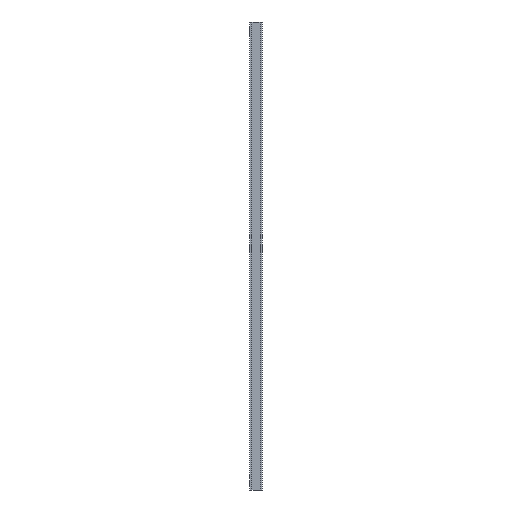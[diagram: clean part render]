
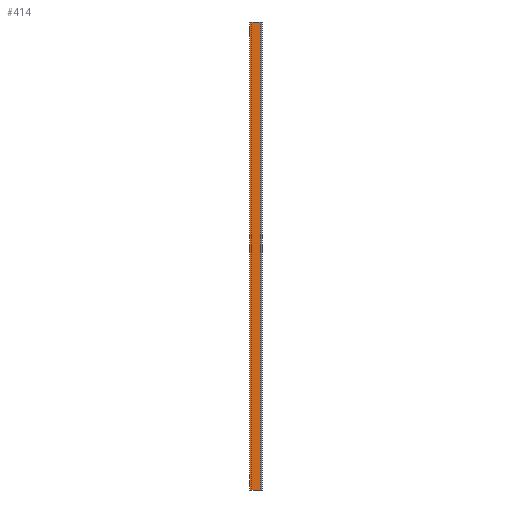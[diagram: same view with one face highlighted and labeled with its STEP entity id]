
A CAD part, left-side view. The second image highlights one B-rep face of the part: STEP entity #414.
In plain terms, the highlighted planar face has unit normal (-1, 0, 0).
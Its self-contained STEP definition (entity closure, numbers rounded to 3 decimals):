
#30 = DIRECTION ( 'NONE',  ( 0., 1., 0. ) ) ;
#39 = CARTESIAN_POINT ( 'NONE',  ( -8., 12.5, 479. ) ) ;
#40 = EDGE_CURVE ( 'NONE', #872, #365, #1517, .T. ) ;
#61 = EDGE_CURVE ( 'NONE', #365, #673, #1117, .T. ) ;
#70 = CARTESIAN_POINT ( 'NONE',  ( -8., 0., 0. ) ) ;
#81 = CARTESIAN_POINT ( 'NONE',  ( -8., 9.3, 479. ) ) ;
#89 = ORIENTED_EDGE ( 'NONE', *, *, #464, .F. ) ;
#101 = CARTESIAN_POINT ( 'NONE',  ( -8., 0., 479. ) ) ;
#112 = EDGE_LOOP ( 'NONE', ( #1707, #1626, #593, #89, #1709, #583, #1312, #295 ) ) ;
#122 = LINE ( 'NONE', #689, #876 ) ;
#147 = CARTESIAN_POINT ( 'NONE',  ( -8., 12.5, 479. ) ) ;
#184 = LINE ( 'NONE', #70, #951 ) ;
#192 = VECTOR ( 'NONE', #524, 1000. ) ;
#210 = DIRECTION ( 'NONE',  ( 0., -1., 0. ) ) ;
#216 = VERTEX_POINT ( 'NONE', #1270 ) ;
#256 = CARTESIAN_POINT ( 'NONE',  ( -8., 9.3, 0. ) ) ;
#276 = VECTOR ( 'NONE', #1369, 1000. ) ;
#295 = ORIENTED_EDGE ( 'NONE', *, *, #852, .F. ) ;
#297 = EDGE_CURVE ( 'NONE', #473, #1073, #184, .T. ) ;
#341 = DIRECTION ( 'NONE',  ( 0., 0., -1. ) ) ;
#365 = VERTEX_POINT ( 'NONE', #1578 ) ;
#377 = DIRECTION ( 'NONE',  ( -1., 0., 0. ) ) ;
#398 = CARTESIAN_POINT ( 'NONE',  ( -8., 0., 0. ) ) ;
#414 = ADVANCED_FACE ( 'NONE', ( #1441 ), #1457, .T. ) ;
#464 = EDGE_CURVE ( 'NONE', #775, #216, #1327, .T. ) ;
#473 = VERTEX_POINT ( 'NONE', #886 ) ;
#476 = LINE ( 'NONE', #1008, #1503 ) ;
#524 = DIRECTION ( 'NONE',  ( 0., 0., -1. ) ) ;
#553 = CARTESIAN_POINT ( 'NONE',  ( -8., 12.5, 0. ) ) ;
#583 = ORIENTED_EDGE ( 'NONE', *, *, #40, .T. ) ;
#593 = ORIENTED_EDGE ( 'NONE', *, *, #1352, .F. ) ;
#616 = DIRECTION ( 'NONE',  ( 0., -1., 0. ) ) ;
#660 = DIRECTION ( 'NONE',  ( 0., 1., 0. ) ) ;
#673 = VERTEX_POINT ( 'NONE', #553 ) ;
#689 = CARTESIAN_POINT ( 'NONE',  ( -8., 0., 0. ) ) ;
#775 = VERTEX_POINT ( 'NONE', #1654 ) ;
#776 = VECTOR ( 'NONE', #210, 1000. ) ;
#816 = CARTESIAN_POINT ( 'NONE',  ( -8., 0., 0. ) ) ;
#835 = AXIS2_PLACEMENT_3D ( 'NONE', #1708, #377, #1177 ) ;
#852 = EDGE_CURVE ( 'NONE', #1427, #673, #1629, .T. ) ;
#872 = VERTEX_POINT ( 'NONE', #81 ) ;
#876 = VECTOR ( 'NONE', #1733, 1000. ) ;
#886 = CARTESIAN_POINT ( 'NONE',  ( -8., 3.2, 0. ) ) ;
#920 = EDGE_CURVE ( 'NONE', #775, #872, #1739, .T. ) ;
#951 = VECTOR ( 'NONE', #616, 1000. ) ;
#1008 = CARTESIAN_POINT ( 'NONE',  ( -8., 0., 479. ) ) ;
#1073 = VERTEX_POINT ( 'NONE', #398 ) ;
#1086 = EDGE_CURVE ( 'NONE', #473, #1427, #122, .T. ) ;
#1117 = LINE ( 'NONE', #147, #192 ) ;
#1177 = DIRECTION ( 'NONE',  ( 0., 0., 1. ) ) ;
#1270 = CARTESIAN_POINT ( 'NONE',  ( -8., 0., 479. ) ) ;
#1312 = ORIENTED_EDGE ( 'NONE', *, *, #61, .T. ) ;
#1327 = LINE ( 'NONE', #101, #776 ) ;
#1352 = EDGE_CURVE ( 'NONE', #216, #1073, #476, .T. ) ;
#1369 = DIRECTION ( 'NONE',  ( 0., 1., 0. ) ) ;
#1414 = VECTOR ( 'NONE', #30, 1000. ) ;
#1427 = VERTEX_POINT ( 'NONE', #256 ) ;
#1441 = FACE_OUTER_BOUND ( 'NONE', #112, .T. ) ;
#1457 = PLANE ( 'NONE',  #835 ) ;
#1503 = VECTOR ( 'NONE', #341, 1000. ) ;
#1517 = LINE ( 'NONE', #39, #1414 ) ;
#1567 = VECTOR ( 'NONE', #660, 1000. ) ;
#1578 = CARTESIAN_POINT ( 'NONE',  ( -8., 12.5, 479. ) ) ;
#1626 = ORIENTED_EDGE ( 'NONE', *, *, #297, .T. ) ;
#1629 = LINE ( 'NONE', #816, #276 ) ;
#1654 = CARTESIAN_POINT ( 'NONE',  ( -8., 3.2, 479. ) ) ;
#1707 = ORIENTED_EDGE ( 'NONE', *, *, #1086, .F. ) ;
#1708 = CARTESIAN_POINT ( 'NONE',  ( -8., 0., 479. ) ) ;
#1709 = ORIENTED_EDGE ( 'NONE', *, *, #920, .T. ) ;
#1732 = CARTESIAN_POINT ( 'NONE',  ( -8., 0., 479. ) ) ;
#1733 = DIRECTION ( 'NONE',  ( 0., 1., 0. ) ) ;
#1739 = LINE ( 'NONE', #1732, #1567 ) ;
